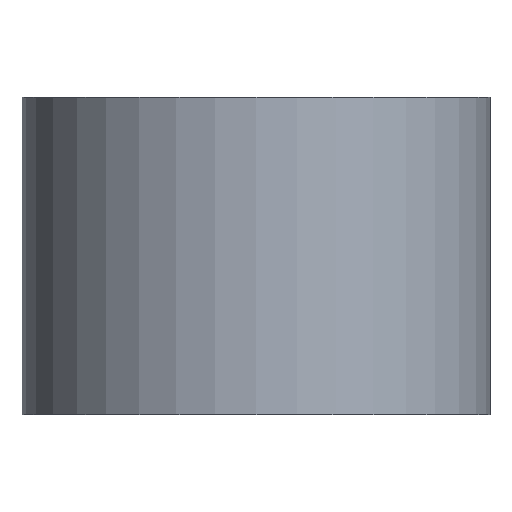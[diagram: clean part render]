
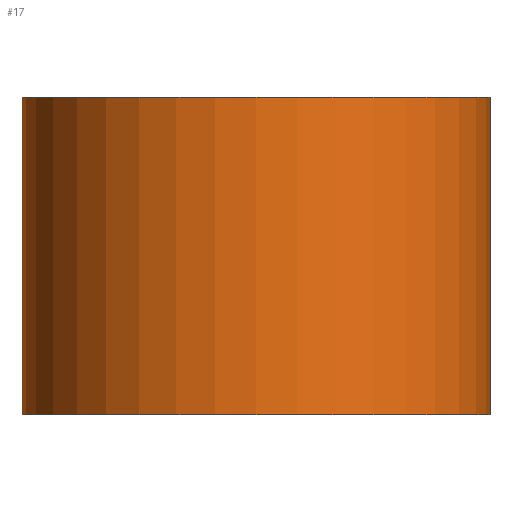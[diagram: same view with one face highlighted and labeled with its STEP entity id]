
A CAD part, front view. The second image highlights one B-rep face of the part: STEP entity #17.
In plain terms, the highlighted cylindrical face has radius 4.2 mm (diameter 8.4 mm), a full revolution.
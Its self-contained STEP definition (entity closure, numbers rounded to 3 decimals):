
#17 = ADVANCED_FACE('',(#18),#32,.T.);
#18 = FACE_BOUND('',#19,.F.);
#19 = EDGE_LOOP('',(#20,#50,#77,#78));
#20 = ORIENTED_EDGE('',*,*,#21,.T.);
#21 = EDGE_CURVE('',#22,#24,#26,.T.);
#22 = VERTEX_POINT('',#23);
#23 = CARTESIAN_POINT('',(4.2,-20.,3.1));
#24 = VERTEX_POINT('',#25);
#25 = CARTESIAN_POINT('',(4.2,-20.,8.8));
#26 = SEAM_CURVE('',#27,(#31,#43),.PCURVE_S1.);
#27 = LINE('',#28,#29);
#28 = CARTESIAN_POINT('',(4.2,-20.,3.1));
#29 = VECTOR('',#30,1.);
#30 = DIRECTION('',(0.,0.,1.));
#31 = PCURVE('',#32,#37);
#32 = CYLINDRICAL_SURFACE('',#33,4.2);
#33 = AXIS2_PLACEMENT_3D('',#34,#35,#36);
#34 = CARTESIAN_POINT('',(0.,-20.,3.1));
#35 = DIRECTION('',(-0.,-0.,-1.));
#36 = DIRECTION('',(1.,0.,0.));
#37 = DEFINITIONAL_REPRESENTATION('',(#38),#42);
#38 = LINE('',#39,#40);
#39 = CARTESIAN_POINT('',(-0.,0.));
#40 = VECTOR('',#41,1.);
#41 = DIRECTION('',(-0.,-1.));
#42 = ( GEOMETRIC_REPRESENTATION_CONTEXT(2) 
PARAMETRIC_REPRESENTATION_CONTEXT() REPRESENTATION_CONTEXT('2D SPACE',''
  ) );
#43 = PCURVE('',#32,#44);
#44 = DEFINITIONAL_REPRESENTATION('',(#45),#49);
#45 = LINE('',#46,#47);
#46 = CARTESIAN_POINT('',(-6.283,0.));
#47 = VECTOR('',#48,1.);
#48 = DIRECTION('',(-0.,-1.));
#49 = ( GEOMETRIC_REPRESENTATION_CONTEXT(2) 
PARAMETRIC_REPRESENTATION_CONTEXT() REPRESENTATION_CONTEXT('2D SPACE',''
  ) );
#50 = ORIENTED_EDGE('',*,*,#51,.T.);
#51 = EDGE_CURVE('',#24,#24,#52,.T.);
#52 = SURFACE_CURVE('',#53,(#58,#65),.PCURVE_S1.);
#53 = CIRCLE('',#54,4.2);
#54 = AXIS2_PLACEMENT_3D('',#55,#56,#57);
#55 = CARTESIAN_POINT('',(0.,-20.,8.8));
#56 = DIRECTION('',(0.,0.,1.));
#57 = DIRECTION('',(1.,0.,0.));
#58 = PCURVE('',#32,#59);
#59 = DEFINITIONAL_REPRESENTATION('',(#60),#64);
#60 = LINE('',#61,#62);
#61 = CARTESIAN_POINT('',(-0.,-5.7));
#62 = VECTOR('',#63,1.);
#63 = DIRECTION('',(-1.,0.));
#64 = ( GEOMETRIC_REPRESENTATION_CONTEXT(2) 
PARAMETRIC_REPRESENTATION_CONTEXT() REPRESENTATION_CONTEXT('2D SPACE',''
  ) );
#65 = PCURVE('',#66,#71);
#66 = PLANE('',#67);
#67 = AXIS2_PLACEMENT_3D('',#68,#69,#70);
#68 = CARTESIAN_POINT('',(0.,-20.,8.8));
#69 = DIRECTION('',(0.,0.,1.));
#70 = DIRECTION('',(1.,0.,-0.));
#71 = DEFINITIONAL_REPRESENTATION('',(#72),#76);
#72 = CIRCLE('',#73,4.2);
#73 = AXIS2_PLACEMENT_2D('',#74,#75);
#74 = CARTESIAN_POINT('',(0.,0.));
#75 = DIRECTION('',(1.,0.));
#76 = ( GEOMETRIC_REPRESENTATION_CONTEXT(2) 
PARAMETRIC_REPRESENTATION_CONTEXT() REPRESENTATION_CONTEXT('2D SPACE',''
  ) );
#77 = ORIENTED_EDGE('',*,*,#21,.F.);
#78 = ORIENTED_EDGE('',*,*,#79,.F.);
#79 = EDGE_CURVE('',#22,#22,#80,.T.);
#80 = SURFACE_CURVE('',#81,(#86,#93),.PCURVE_S1.);
#81 = CIRCLE('',#82,4.2);
#82 = AXIS2_PLACEMENT_3D('',#83,#84,#85);
#83 = CARTESIAN_POINT('',(0.,-20.,3.1));
#84 = DIRECTION('',(0.,0.,1.));
#85 = DIRECTION('',(1.,0.,0.));
#86 = PCURVE('',#32,#87);
#87 = DEFINITIONAL_REPRESENTATION('',(#88),#92);
#88 = LINE('',#89,#90);
#89 = CARTESIAN_POINT('',(-0.,0.));
#90 = VECTOR('',#91,1.);
#91 = DIRECTION('',(-1.,0.));
#92 = ( GEOMETRIC_REPRESENTATION_CONTEXT(2) 
PARAMETRIC_REPRESENTATION_CONTEXT() REPRESENTATION_CONTEXT('2D SPACE',''
  ) );
#93 = PCURVE('',#94,#99);
#94 = PLANE('',#95);
#95 = AXIS2_PLACEMENT_3D('',#96,#97,#98);
#96 = CARTESIAN_POINT('',(0.,-20.,3.1));
#97 = DIRECTION('',(0.,0.,1.));
#98 = DIRECTION('',(1.,0.,-0.));
#99 = DEFINITIONAL_REPRESENTATION('',(#100),#104);
#100 = CIRCLE('',#101,4.2);
#101 = AXIS2_PLACEMENT_2D('',#102,#103);
#102 = CARTESIAN_POINT('',(0.,0.));
#103 = DIRECTION('',(1.,0.));
#104 = ( GEOMETRIC_REPRESENTATION_CONTEXT(2) 
PARAMETRIC_REPRESENTATION_CONTEXT() REPRESENTATION_CONTEXT('2D SPACE',''
  ) );
